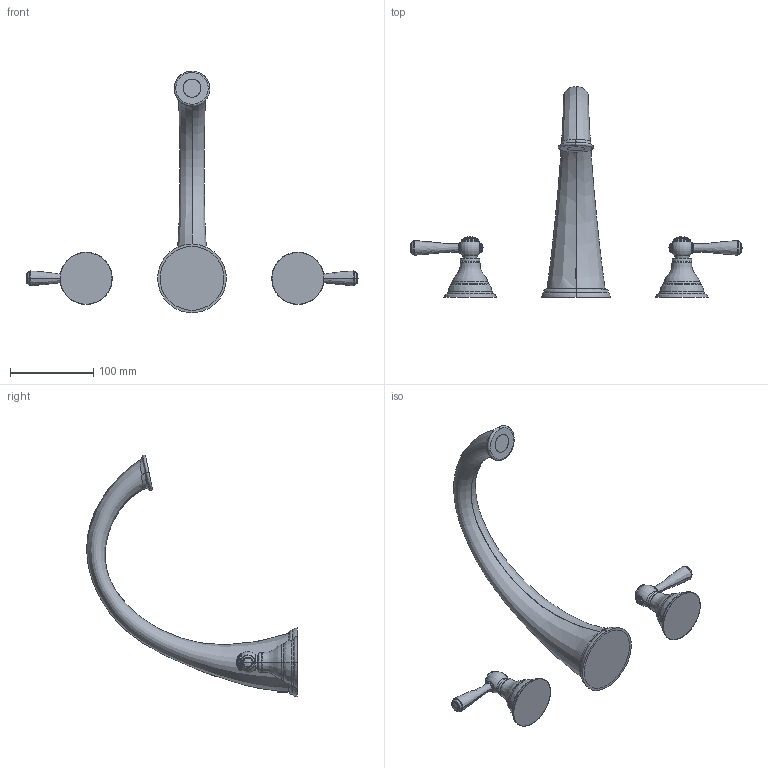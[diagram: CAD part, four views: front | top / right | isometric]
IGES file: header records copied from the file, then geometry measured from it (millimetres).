
Start section:  PTC IGES file: sku_t920.igs
Global section: file name: sku_t920.igs; native system: Pro/ENGINEER by Parametric Technology Corporation; preprocessor: 2006460; author: 9dutterb; organization: Unknown; date: 20071212.165126; units: inch
Bounding box: 398.2 x 252.76 x 289.69 mm (x, y, z)
Surface area: 150044.7 mm2 (no closed solid volume)
Topology: 0 solids, 0 shells, 469 faces, 2224 edges, 2208 vertices
Faces by surface type: revolution 315, bspline 150, extrusion 4
